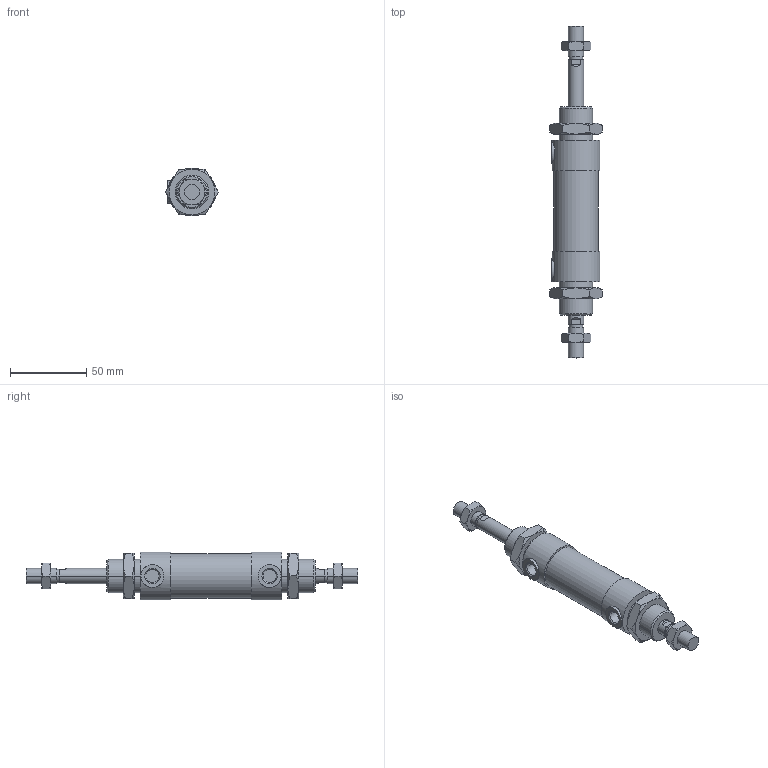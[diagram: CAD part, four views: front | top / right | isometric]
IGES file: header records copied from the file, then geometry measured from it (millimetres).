
Global section: file name: No Iges File Name specified; native system: AutoDesk Inventor R10; preprocessor: AutoDesk Inventor Iges Exporter R10; author: No Author specified; organization: No Organization specified; date: 20060105.143554; units: millimetre
Bounding box: 34.64 x 218 x 31.5 mm (x, y, z)
Volume: 96490.9 mm3; surface area: 30960.8 mm2
Topology: 6 solids, 6 shells, 185 faces, 397 edges, 232 vertices
Faces by surface type: cone 68, plane 62, cylinder 21, bspline 20, revolution 14
Full cylindrical faces by diameter (mm): 29 x1, 31.5 x2
